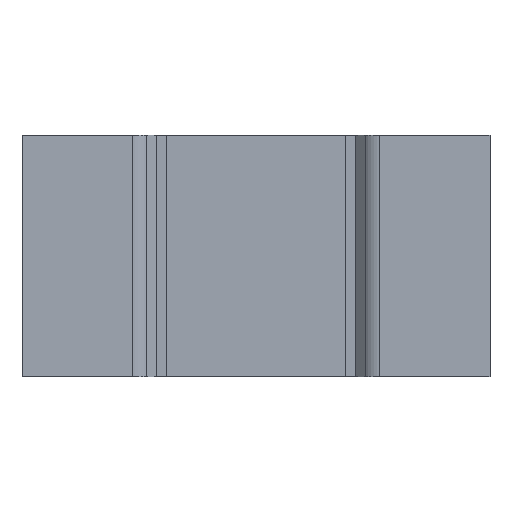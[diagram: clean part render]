
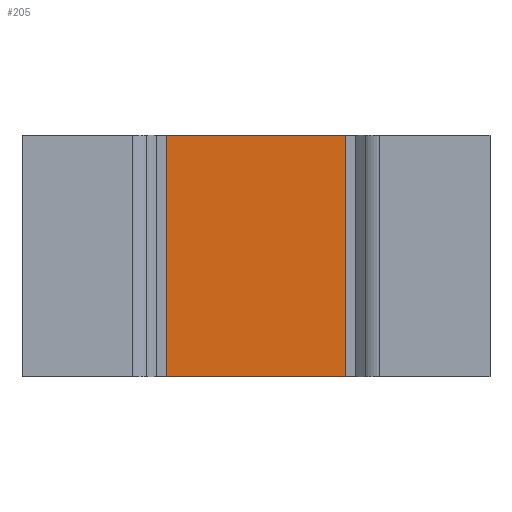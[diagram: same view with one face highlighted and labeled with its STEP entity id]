
A CAD part, front view. The second image highlights one B-rep face of the part: STEP entity #205.
In plain terms, the highlighted planar face has unit normal (0, -1, 0).
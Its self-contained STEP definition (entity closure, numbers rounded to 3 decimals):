
#20 = CARTESIAN_POINT ( 'NONE',  ( 4.625, 0.5, -7.75 ) ) ;
#29 = AXIS2_PLACEMENT_3D ( 'NONE', #863, #858, #802 ) ;
#33 = CARTESIAN_POINT ( 'NONE',  ( 10.375, 0.5, -7.75 ) ) ;
#87 = VECTOR ( 'NONE', #668, 1000. ) ;
#89 = VECTOR ( 'NONE', #585, 1000. ) ;
#153 = VERTEX_POINT ( 'NONE', #502 ) ;
#205 = ADVANCED_FACE ( 'NONE', ( #216 ), #653, .T. ) ;
#216 = FACE_OUTER_BOUND ( 'NONE', #572, .T. ) ;
#319 = CARTESIAN_POINT ( 'NONE',  ( 10.375, 0.5, 0. ) ) ;
#329 = EDGE_CURVE ( 'NONE', #861, #712, #674, .T. ) ;
#377 = LINE ( 'NONE', #654, #89 ) ;
#386 = ORIENTED_EDGE ( 'NONE', *, *, #472, .F. ) ;
#456 = DIRECTION ( 'NONE',  ( 0., 0., 1. ) ) ;
#472 = EDGE_CURVE ( 'NONE', #861, #153, #524, .T. ) ;
#502 = CARTESIAN_POINT ( 'NONE',  ( 4.625, 0.5, 0. ) ) ;
#503 = DIRECTION ( 'NONE',  ( 0., 0., 1. ) ) ;
#524 = LINE ( 'NONE', #810, #651 ) ;
#530 = EDGE_CURVE ( 'NONE', #712, #661, #643, .T. ) ;
#551 = CARTESIAN_POINT ( 'NONE',  ( 4.625, 0.5, -7.75 ) ) ;
#572 = EDGE_LOOP ( 'NONE', ( #741, #386, #598, #806 ) ) ;
#574 = CARTESIAN_POINT ( 'NONE',  ( 10.375, 0.5, -7.75 ) ) ;
#585 = DIRECTION ( 'NONE',  ( 1., 0., 0. ) ) ;
#598 = ORIENTED_EDGE ( 'NONE', *, *, #329, .T. ) ;
#614 = EDGE_CURVE ( 'NONE', #153, #661, #377, .T. ) ;
#643 = LINE ( 'NONE', #574, #781 ) ;
#651 = VECTOR ( 'NONE', #456, 1000. ) ;
#653 = PLANE ( 'NONE',  #29 ) ;
#654 = CARTESIAN_POINT ( 'NONE',  ( 4.625, 0.5, 0. ) ) ;
#661 = VERTEX_POINT ( 'NONE', #319 ) ;
#668 = DIRECTION ( 'NONE',  ( 1., 0., 0. ) ) ;
#674 = LINE ( 'NONE', #20, #87 ) ;
#712 = VERTEX_POINT ( 'NONE', #33 ) ;
#741 = ORIENTED_EDGE ( 'NONE', *, *, #614, .F. ) ;
#781 = VECTOR ( 'NONE', #503, 1000. ) ;
#802 = DIRECTION ( 'NONE',  ( 0., 0., -1. ) ) ;
#806 = ORIENTED_EDGE ( 'NONE', *, *, #530, .T. ) ;
#810 = CARTESIAN_POINT ( 'NONE',  ( 4.625, 0.5, -7.75 ) ) ;
#858 = DIRECTION ( 'NONE',  ( 0., -1., 0. ) ) ;
#861 = VERTEX_POINT ( 'NONE', #551 ) ;
#863 = CARTESIAN_POINT ( 'NONE',  ( 4.625, 0.5, -7.75 ) ) ;
